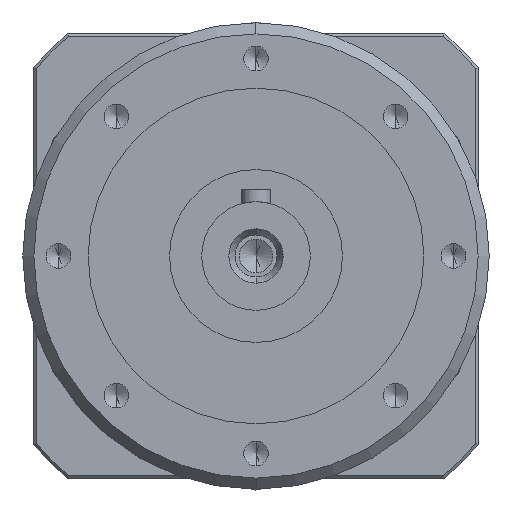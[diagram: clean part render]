
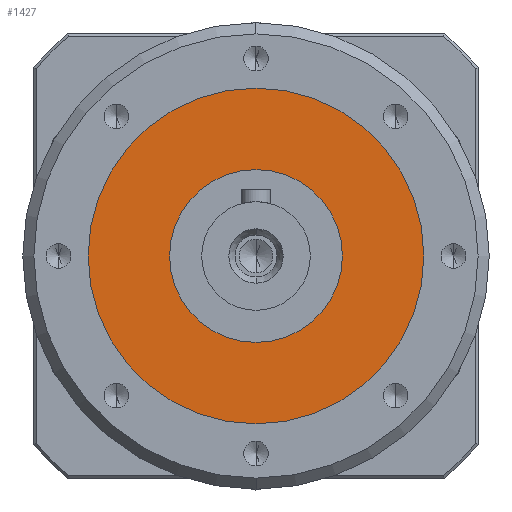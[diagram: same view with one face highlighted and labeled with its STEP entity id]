
A CAD part, left-side view. The second image highlights one B-rep face of the part: STEP entity #1427.
In plain terms, the highlighted planar face has unit normal (-1, 0, 0) as drawn and (0, 1, 0) by its records, which use the part's own axes.
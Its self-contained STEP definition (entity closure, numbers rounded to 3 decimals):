
#1330 = EDGE_CURVE ( 'NONE', #1377, #1380, #5309, .T. ) ;
#1377 = VERTEX_POINT ( 'NONE', #5875 ) ;
#1380 = VERTEX_POINT ( 'NONE', #5917 ) ;
#1392 = EDGE_CURVE ( 'NONE', #9176, #9153, #5882, .T. ) ;
#1397 = EDGE_LOOP ( 'NONE', ( #1464, #8829 ) ) ;
#1427 = ADVANCED_FACE ( 'NONE', ( #6338, #6318 ), #6317, .T. ) ;
#1464 = ORIENTED_EDGE ( 'NONE', *, *, #1330, .T. ) ;
#2194 = EDGE_CURVE ( 'NONE', #1380, #1377, #3758, .T. ) ;
#2204 = ORIENTED_EDGE ( 'NONE', *, *, #1392, .F. ) ;
#2205 = EDGE_LOOP ( 'NONE', ( #2220, #2204 ) ) ;
#2220 = ORIENTED_EDGE ( 'NONE', *, *, #9445, .F. ) ;
#3286 = CARTESIAN_POINT ( 'NONE',  ( 0., 56., 17.5 ) ) ;
#3302 = CARTESIAN_POINT ( 'NONE',  ( 0., 56., -17.5 ) ) ;
#3314 = AXIS2_PLACEMENT_3D ( 'NONE', #3356, #3359, #3353 ) ;
#3321 = CIRCLE ( 'NONE', #3314, 17.5 ) ;
#3353 = DIRECTION ( 'NONE',  ( 0., 0., 1. ) ) ;
#3356 = CARTESIAN_POINT ( 'NONE',  ( 0., 56., 0. ) ) ;
#3359 = DIRECTION ( 'NONE',  ( 0., 1., 0. ) ) ;
#3758 = CIRCLE ( 'NONE', #3894, 34. ) ;
#3858 = DIRECTION ( 'NONE',  ( 0., 1., 0. ) ) ;
#3859 = CARTESIAN_POINT ( 'NONE',  ( 0., 56., 0. ) ) ;
#3867 = DIRECTION ( 'NONE',  ( 0., 0., 1. ) ) ;
#3894 = AXIS2_PLACEMENT_3D ( 'NONE', #3859, #3858, #3867 ) ;
#4617 = AXIS2_PLACEMENT_3D ( 'NONE', #4861, #4859, #4863 ) ;
#4859 = DIRECTION ( 'NONE',  ( 0., 1., 0. ) ) ;
#4861 = CARTESIAN_POINT ( 'NONE',  ( 0., 56., 0. ) ) ;
#4863 = DIRECTION ( 'NONE',  ( 0., 0., 1. ) ) ;
#5283 = DIRECTION ( 'NONE',  ( 0., 1., 0. ) ) ;
#5284 = CARTESIAN_POINT ( 'NONE',  ( 0., 56., 0. ) ) ;
#5286 = AXIS2_PLACEMENT_3D ( 'NONE', #5284, #5283, #5338 ) ;
#5309 = CIRCLE ( 'NONE', #5286, 34. ) ;
#5338 = DIRECTION ( 'NONE',  ( 0., 0., 1. ) ) ;
#5875 = CARTESIAN_POINT ( 'NONE',  ( 0., 56., 34. ) ) ;
#5882 = CIRCLE ( 'NONE', #4617, 17.5 ) ;
#5917 = CARTESIAN_POINT ( 'NONE',  ( 0., 56., -34. ) ) ;
#6272 = AXIS2_PLACEMENT_3D ( 'NONE', #6336, #6285, #6284 ) ;
#6284 = DIRECTION ( 'NONE',  ( 0., 0., 1. ) ) ;
#6285 = DIRECTION ( 'NONE',  ( 0., 1., 0. ) ) ;
#6317 = PLANE ( 'NONE',  #6272 ) ;
#6318 = FACE_BOUND ( 'NONE', #2205, .T. ) ;
#6336 = CARTESIAN_POINT ( 'NONE',  ( 0., 56., 0. ) ) ;
#6338 = FACE_OUTER_BOUND ( 'NONE', #1397, .T. ) ;
#8829 = ORIENTED_EDGE ( 'NONE', *, *, #2194, .T. ) ;
#9153 = VERTEX_POINT ( 'NONE', #3286 ) ;
#9176 = VERTEX_POINT ( 'NONE', #3302 ) ;
#9445 = EDGE_CURVE ( 'NONE', #9153, #9176, #3321, .T. ) ;
